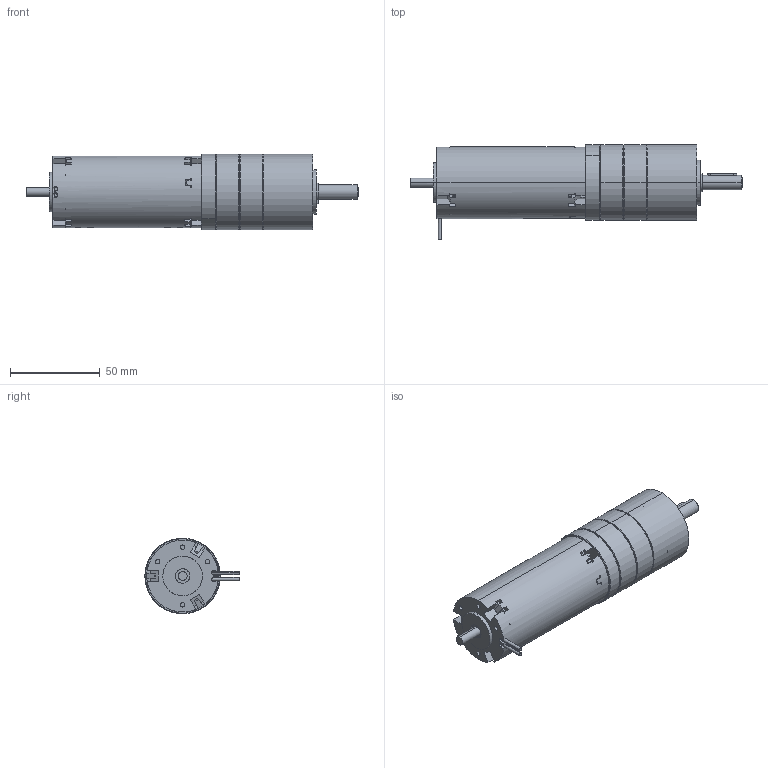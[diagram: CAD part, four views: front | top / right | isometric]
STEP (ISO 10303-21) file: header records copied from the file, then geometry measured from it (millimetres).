
FILE_DESCRIPTION (( 'STEP AP214' ), '1' );
FILE_NAME ('1.13.049_+_PM42-2etages.STEP', '2013-07-18T14:47:58', ( '' ), ( '' ), 'SwSTEP 2.0', 'SolidWorks 2013', '' );
FILE_SCHEMA (( 'AUTOMOTIVE_DESIGN' ));
Length unit declared in the file: millimetre
Products named in the file (18): 8001316_ABTRIEB_LK4_KPL_5; 8001305_LAGERBOLZEN_6; VBZ_K7841_ABTRIEB_AF0_6; DIN998_PS_8X14X1_6; D625-608-2RS_5; 8007595_LAGERFLANSCH_5; 1.13.049_+_PM42-2etages; 1.13.049.401_3; D912_M3X8_5; SCHRAUBE_1241978_12; 8006286_MOTORRITZEL_Z17_2; 8007579_ANLAUFSCHEIBE_Z17_1ST_1; 1210329_1; P8209_8007589_ZAHNKRANZ_Z46_5; 8007606_DICHTRING_5; 3X3X16_D6885A_6; D471_8X0_8_6
Assembly tree (28 placements, depth 3):
  1.13.049_+_PM42-2etages
    8007595_LAGERFLANSCH_5
    D625-608-2RS_5  x2
    DIN998_PS_8X14X1_6  x2
    8001316_ABTRIEB_LK4_KPL_5
      VBZ_K7841_ABTRIEB_AF0_6
      8001305_LAGERBOLZEN_6  x3
    D471_8X0_8_6
    3X3X16_D6885A_6
    8007606_DICHTRING_5  x3
    P8209_8007589_ZAHNKRANZ_Z46_5  x2
    1210329_1
    8007579_ANLAUFSCHEIBE_Z17_1ST_1
    8006286_MOTORRITZEL_Z17_2
    SCHRAUBE_1241978_12  x4
    D912_M3X8_5  x2
    1.13.049.401_3
      1.13.049.401_3
Bounding box: 184.65 x 52.44 x 42 mm (x, y, z)
Volume: 24707.7 mm3; surface area: 68462.4 mm2
Topology: 20 solids, 51 shells, 1434 faces, 3960 edges, 2583 vertices
Faces by surface type: cylinder 657, plane 531, cone 141, bspline 105
Entity records: 44797 total; most frequent: CARTESIAN_POINT 12596, ORIENTED_EDGE 5823, DIRECTION 5477, EDGE_CURVE 2944, AXIS2_PLACEMENT_3D 2007, VERTEX_POINT 1933, LINE 1463, VECTOR 1463
